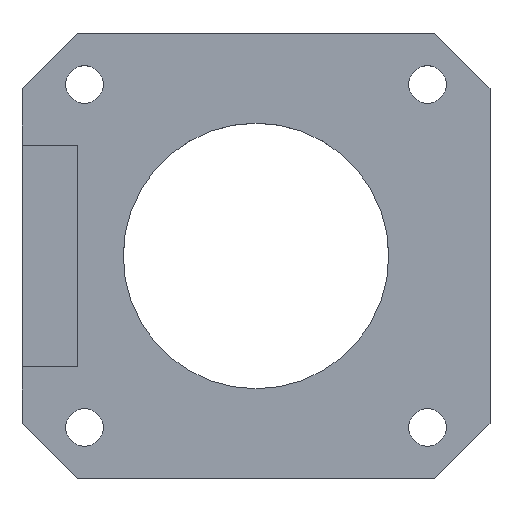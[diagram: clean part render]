
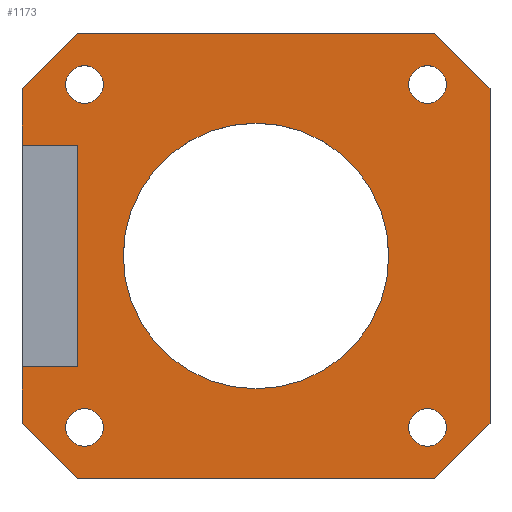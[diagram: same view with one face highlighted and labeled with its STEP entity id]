
A CAD part, top view. The second image highlights one B-rep face of the part: STEP entity #1173.
In plain terms, the highlighted planar face has unit normal (0, 0, 1).
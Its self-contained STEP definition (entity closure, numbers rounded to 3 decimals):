
#491=DIRECTION('',(0.,-1.,0.));
#492=VECTOR('',#491,30.3);
#493=CARTESIAN_POINT('',(42.3,35.3,3.));
#494=LINE('',#493,#492);
#498=DIRECTION('',(-0.707,-0.707,0.));
#499=VECTOR('',#498,7.071);
#500=CARTESIAN_POINT('',(42.3,5.,3.));
#501=LINE('',#500,#499);
#505=DIRECTION('',(-0.707,0.707,0.));
#506=VECTOR('',#505,7.071);
#507=CARTESIAN_POINT('',(5.,0.,3.));
#508=LINE('',#507,#506);
#512=DIRECTION('',(0.,1.,0.));
#513=VECTOR('',#512,5.15);
#514=CARTESIAN_POINT('',(0.,5.,3.));
#515=LINE('',#514,#513);
#519=DIRECTION('',(-1.,0.,0.));
#520=VECTOR('',#519,5.);
#521=CARTESIAN_POINT('',(5.,30.15,3.));
#522=LINE('',#521,#520);
#526=DIRECTION('',(0.,1.,0.));
#527=VECTOR('',#526,5.15);
#528=CARTESIAN_POINT('',(0.,30.15,3.));
#529=LINE('',#528,#527);
#533=DIRECTION('',(0.707,0.707,0.));
#534=VECTOR('',#533,7.071);
#535=CARTESIAN_POINT('',(0.,35.3,3.));
#536=LINE('',#535,#534);
#540=DIRECTION('',(1.,0.,0.));
#541=VECTOR('',#540,32.3);
#542=CARTESIAN_POINT('',(5.,40.3,3.));
#543=LINE('',#542,#541);
#547=DIRECTION('',(0.707,-0.707,0.));
#548=VECTOR('',#547,7.071);
#549=CARTESIAN_POINT('',(37.3,40.3,3.));
#550=LINE('',#549,#548);
#554=CARTESIAN_POINT('',(5.65,35.65,3.));
#555=DIRECTION('',(0.,0.,1.));
#556=DIRECTION('',(1.,0.,0.));
#557=AXIS2_PLACEMENT_3D('',#554,#555,#556);
#562=CARTESIAN_POINT('',(5.65,35.65,3.));
#563=DIRECTION('',(0.,0.,1.));
#564=DIRECTION('',(-1.,0.,0.));
#565=AXIS2_PLACEMENT_3D('',#562,#563,#564);
#570=CARTESIAN_POINT('',(5.65,4.65,3.));
#571=DIRECTION('',(0.,0.,1.));
#572=DIRECTION('',(1.,0.,0.));
#573=AXIS2_PLACEMENT_3D('',#570,#571,#572);
#578=CARTESIAN_POINT('',(5.65,4.65,3.));
#579=DIRECTION('',(0.,0.,1.));
#580=DIRECTION('',(-1.,0.,0.));
#581=AXIS2_PLACEMENT_3D('',#578,#579,#580);
#586=CARTESIAN_POINT('',(21.15,20.15,3.));
#587=DIRECTION('',(0.,0.,1.));
#588=DIRECTION('',(1.,0.,0.));
#589=AXIS2_PLACEMENT_3D('',#586,#587,#588);
#594=CARTESIAN_POINT('',(21.15,20.15,3.));
#595=DIRECTION('',(0.,0.,1.));
#596=DIRECTION('',(-1.,0.,0.));
#597=AXIS2_PLACEMENT_3D('',#594,#595,#596);
#602=CARTESIAN_POINT('',(36.65,35.65,3.));
#603=DIRECTION('',(0.,0.,1.));
#604=DIRECTION('',(1.,0.,0.));
#605=AXIS2_PLACEMENT_3D('',#602,#603,#604);
#610=CARTESIAN_POINT('',(36.65,35.65,3.));
#611=DIRECTION('',(0.,0.,1.));
#612=DIRECTION('',(-1.,0.,0.));
#613=AXIS2_PLACEMENT_3D('',#610,#611,#612);
#618=CARTESIAN_POINT('',(36.65,4.65,3.));
#619=DIRECTION('',(0.,0.,1.));
#620=DIRECTION('',(1.,0.,0.));
#621=AXIS2_PLACEMENT_3D('',#618,#619,#620);
#626=CARTESIAN_POINT('',(36.65,4.65,3.));
#627=DIRECTION('',(0.,0.,1.));
#628=DIRECTION('',(-1.,0.,0.));
#629=AXIS2_PLACEMENT_3D('',#626,#627,#628);
#648=DIRECTION('',(-1.,0.,0.));
#649=VECTOR('',#648,32.3);
#650=CARTESIAN_POINT('',(37.3,0.,3.));
#651=LINE('',#650,#649);
#722=DIRECTION('',(0.,1.,0.));
#723=VECTOR('',#722,20.);
#724=CARTESIAN_POINT('',(5.,10.15,3.));
#725=LINE('',#724,#723);
#761=DIRECTION('',(-1.,0.,0.));
#762=VECTOR('',#761,5.);
#763=CARTESIAN_POINT('',(5.,10.15,3.));
#764=LINE('',#763,#762);
#902=CARTESIAN_POINT('',(42.3,5.,3.));
#904=VERTEX_POINT('',#902);
#905=CARTESIAN_POINT('',(42.3,35.3,3.));
#906=VERTEX_POINT('',#905);
#909=CARTESIAN_POINT('',(37.3,0.,3.));
#910=VERTEX_POINT('',#909);
#914=CARTESIAN_POINT('',(37.3,40.3,3.));
#916=VERTEX_POINT('',#914);
#925=CARTESIAN_POINT('',(5.,0.,3.));
#926=VERTEX_POINT('',#925);
#927=CARTESIAN_POINT('',(0.,5.,3.));
#928=VERTEX_POINT('',#927);
#929=CARTESIAN_POINT('',(0.,10.15,3.));
#930=VERTEX_POINT('',#929);
#931=CARTESIAN_POINT('',(5.,10.15,3.));
#932=VERTEX_POINT('',#931);
#933=CARTESIAN_POINT('',(5.,30.15,3.));
#934=VERTEX_POINT('',#933);
#935=CARTESIAN_POINT('',(0.,30.15,3.));
#936=VERTEX_POINT('',#935);
#937=CARTESIAN_POINT('',(0.,35.3,3.));
#938=VERTEX_POINT('',#937);
#939=CARTESIAN_POINT('',(5.,40.3,3.));
#940=VERTEX_POINT('',#939);
#949=CARTESIAN_POINT('',(7.35,35.65,3.));
#951=VERTEX_POINT('',#949);
#955=CARTESIAN_POINT('',(3.95,35.65,3.));
#956=VERTEX_POINT('',#955);
#957=CARTESIAN_POINT('',(7.35,4.65,3.));
#959=VERTEX_POINT('',#957);
#963=CARTESIAN_POINT('',(3.95,4.65,3.));
#964=VERTEX_POINT('',#963);
#966=CARTESIAN_POINT('',(9.15,20.15,3.));
#968=VERTEX_POINT('',#966);
#971=CARTESIAN_POINT('',(33.15,20.15,3.));
#972=VERTEX_POINT('',#971);
#973=CARTESIAN_POINT('',(38.35,35.65,3.));
#975=VERTEX_POINT('',#973);
#979=CARTESIAN_POINT('',(34.95,35.65,3.));
#980=VERTEX_POINT('',#979);
#981=CARTESIAN_POINT('',(38.35,4.65,3.));
#983=VERTEX_POINT('',#981);
#987=CARTESIAN_POINT('',(34.95,4.65,3.));
#988=VERTEX_POINT('',#987);
#1116=CARTESIAN_POINT('',(42.3,5.,3.));
#1117=DIRECTION('',(0.,0.,-1.));
#1118=DIRECTION('',(-1.,0.,0.));
#1119=AXIS2_PLACEMENT_3D('',#1116,#1117,#1118);
#1120=PLANE('',#1119);
#1121=ORIENTED_EDGE('',*,*,#1012,.T.);
#1122=ORIENTED_EDGE('',*,*,#1031,.T.);
#1124=ORIENTED_EDGE('',*,*,#1123,.T.);
#1126=ORIENTED_EDGE('',*,*,#1125,.T.);
#1128=ORIENTED_EDGE('',*,*,#1127,.T.);
#1130=ORIENTED_EDGE('',*,*,#1129,.F.);
#1132=ORIENTED_EDGE('',*,*,#1131,.T.);
#1134=ORIENTED_EDGE('',*,*,#1133,.T.);
#1136=ORIENTED_EDGE('',*,*,#1135,.T.);
#1138=ORIENTED_EDGE('',*,*,#1137,.T.);
#1139=ORIENTED_EDGE('',*,*,#1108,.T.);
#1140=ORIENTED_EDGE('',*,*,#1097,.T.);
#1141=EDGE_LOOP('',(#1121,#1122,#1124,#1126,#1128,#1130,#1132,#1134,#1136,#1138,
#1139,#1140));
#1142=FACE_OUTER_BOUND('',#1141,.F.);
#1144=ORIENTED_EDGE('',*,*,#1143,.T.);
#1146=ORIENTED_EDGE('',*,*,#1145,.T.);
#1147=EDGE_LOOP('',(#1144,#1146));
#1148=FACE_BOUND('',#1147,.F.);
#1150=ORIENTED_EDGE('',*,*,#1149,.T.);
#1152=ORIENTED_EDGE('',*,*,#1151,.T.);
#1153=EDGE_LOOP('',(#1150,#1152));
#1154=FACE_BOUND('',#1153,.F.);
#1156=ORIENTED_EDGE('',*,*,#1155,.T.);
#1158=ORIENTED_EDGE('',*,*,#1157,.T.);
#1159=EDGE_LOOP('',(#1156,#1158));
#1160=FACE_BOUND('',#1159,.F.);
#1162=ORIENTED_EDGE('',*,*,#1161,.T.);
#1164=ORIENTED_EDGE('',*,*,#1163,.T.);
#1165=EDGE_LOOP('',(#1162,#1164));
#1166=FACE_BOUND('',#1165,.F.);
#1168=ORIENTED_EDGE('',*,*,#1167,.T.);
#1170=ORIENTED_EDGE('',*,*,#1169,.T.);
#1171=EDGE_LOOP('',(#1168,#1170));
#1172=FACE_BOUND('',#1171,.F.);
#558=CIRCLE('',#557,1.7);
#566=CIRCLE('',#565,1.7);
#574=CIRCLE('',#573,1.7);
#582=CIRCLE('',#581,1.7);
#590=CIRCLE('',#589,12.);
#598=CIRCLE('',#597,12.);
#606=CIRCLE('',#605,1.7);
#614=CIRCLE('',#613,1.7);
#622=CIRCLE('',#621,1.7);
#630=CIRCLE('',#629,1.7);
#1012=EDGE_CURVE('',#906,#904,#494,.T.);
#1031=EDGE_CURVE('',#904,#910,#501,.T.);
#1097=EDGE_CURVE('',#916,#906,#550,.T.);
#1108=EDGE_CURVE('',#940,#916,#543,.T.);
#1123=EDGE_CURVE('',#910,#926,#651,.T.);
#1125=EDGE_CURVE('',#926,#928,#508,.T.);
#1127=EDGE_CURVE('',#928,#930,#515,.T.);
#1129=EDGE_CURVE('',#932,#930,#764,.T.);
#1131=EDGE_CURVE('',#932,#934,#725,.T.);
#1133=EDGE_CURVE('',#934,#936,#522,.T.);
#1135=EDGE_CURVE('',#936,#938,#529,.T.);
#1137=EDGE_CURVE('',#938,#940,#536,.T.);
#1143=EDGE_CURVE('',#951,#956,#558,.T.);
#1145=EDGE_CURVE('',#956,#951,#566,.T.);
#1149=EDGE_CURVE('',#959,#964,#574,.T.);
#1151=EDGE_CURVE('',#964,#959,#582,.T.);
#1155=EDGE_CURVE('',#972,#968,#590,.T.);
#1157=EDGE_CURVE('',#968,#972,#598,.T.);
#1161=EDGE_CURVE('',#975,#980,#606,.T.);
#1163=EDGE_CURVE('',#980,#975,#614,.T.);
#1167=EDGE_CURVE('',#983,#988,#622,.T.);
#1169=EDGE_CURVE('',#988,#983,#630,.T.);
#1173=ADVANCED_FACE('',(#1142,#1148,#1154,#1160,#1166,#1172),#1120,.F.);
